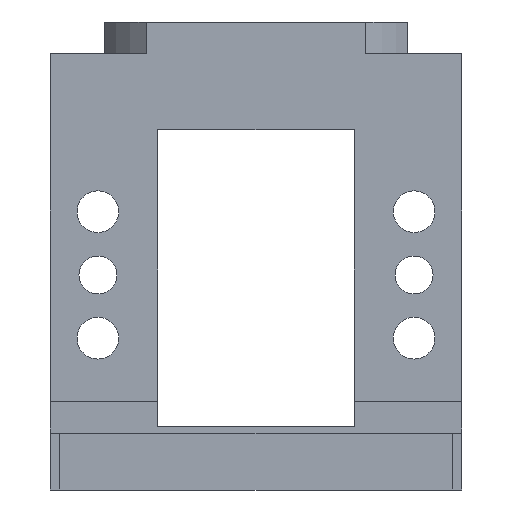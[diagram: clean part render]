
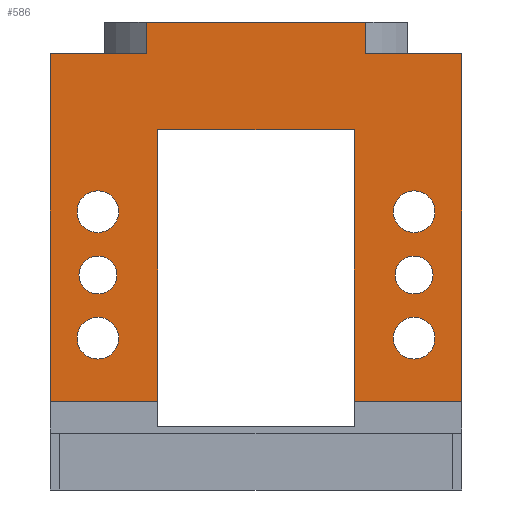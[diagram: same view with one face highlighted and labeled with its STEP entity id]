
A CAD part, front view. The second image highlights one B-rep face of the part: STEP entity #586.
In plain terms, the highlighted planar face has unit normal (0, -1, 0).
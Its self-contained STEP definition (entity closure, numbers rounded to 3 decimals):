
#586=ADVANCED_FACE('',(#981,#982,#983,#984,#985,#986,#987),#737,.F.);
#737=PLANE('',#3544);
#841=CIRCLE('',#3444,3.);
#843=CIRCLE('',#3447,3.);
#872=CIRCLE('',#3499,3.3);
#875=CIRCLE('',#3504,3.3);
#879=CIRCLE('',#3510,3.3);
#883=CIRCLE('',#3516,3.3);
#981=FACE_BOUND('',#1118,.T.);
#982=FACE_BOUND('',#1119,.T.);
#983=FACE_BOUND('',#1120,.T.);
#984=FACE_BOUND('',#1121,.T.);
#985=FACE_BOUND('',#1122,.T.);
#986=FACE_BOUND('',#1123,.T.);
#987=FACE_BOUND('',#1124,.T.);
#1118=EDGE_LOOP('',(#1439));
#1119=EDGE_LOOP('',(#1440));
#1120=EDGE_LOOP('',(#1441));
#1121=EDGE_LOOP('',(#1442));
#1122=EDGE_LOOP('',(#1443));
#1123=EDGE_LOOP('',(#1444));
#1124=EDGE_LOOP('',(#1445,#1446,#1447,#1448,#1449,#1450,#1451,#1452,#1453,
#1454,#1455,#1456));
#1439=ORIENTED_EDGE('',*,*,#2548,.F.);
#1440=ORIENTED_EDGE('',*,*,#2550,.F.);
#1441=ORIENTED_EDGE('',*,*,#2590,.F.);
#1442=ORIENTED_EDGE('',*,*,#2586,.F.);
#1443=ORIENTED_EDGE('',*,*,#2579,.F.);
#1444=ORIENTED_EDGE('',*,*,#2582,.F.);
#1445=ORIENTED_EDGE('',*,*,#2628,.F.);
#1446=ORIENTED_EDGE('',*,*,#2637,.F.);
#1447=ORIENTED_EDGE('',*,*,#2638,.T.);
#1448=ORIENTED_EDGE('',*,*,#2639,.T.);
#1449=ORIENTED_EDGE('',*,*,#2640,.F.);
#1450=ORIENTED_EDGE('',*,*,#2610,.F.);
#1451=ORIENTED_EDGE('',*,*,#2641,.T.);
#1452=ORIENTED_EDGE('',*,*,#2642,.T.);
#1453=ORIENTED_EDGE('',*,*,#2643,.F.);
#1454=ORIENTED_EDGE('',*,*,#2603,.T.);
#1455=ORIENTED_EDGE('',*,*,#2630,.F.);
#1456=ORIENTED_EDGE('',*,*,#2621,.F.);
#2224=VERTEX_POINT('',#4351);
#2226=VERTEX_POINT('',#4356);
#2259=VERTEX_POINT('',#4441);
#2262=VERTEX_POINT('',#4449);
#2266=VERTEX_POINT('',#4459);
#2270=VERTEX_POINT('',#4469);
#2282=VERTEX_POINT('',#4497);
#2283=VERTEX_POINT('',#4499);
#2288=VERTEX_POINT('',#4511);
#2289=VERTEX_POINT('',#4513);
#2297=VERTEX_POINT('',#4539);
#2298=VERTEX_POINT('',#4541);
#2302=VERTEX_POINT('',#4552);
#2306=VERTEX_POINT('',#4573);
#2307=VERTEX_POINT('',#4575);
#2308=VERTEX_POINT('',#4577);
#2309=VERTEX_POINT('',#4580);
#2310=VERTEX_POINT('',#4582);
#2548=EDGE_CURVE('',#2224,#2224,#841,.T.);
#2550=EDGE_CURVE('',#2226,#2226,#843,.T.);
#2579=EDGE_CURVE('',#2259,#2259,#872,.T.);
#2582=EDGE_CURVE('',#2262,#2262,#875,.T.);
#2586=EDGE_CURVE('',#2266,#2266,#879,.T.);
#2590=EDGE_CURVE('',#2270,#2270,#883,.T.);
#2603=EDGE_CURVE('',#2283,#2282,#3004,.T.);
#2610=EDGE_CURVE('',#2288,#2289,#3010,.T.);
#2621=EDGE_CURVE('',#2297,#2298,#3017,.T.);
#2628=EDGE_CURVE('',#2302,#2297,#3020,.T.);
#2630=EDGE_CURVE('',#2298,#2282,#3022,.T.);
#2637=EDGE_CURVE('',#2306,#2302,#3027,.T.);
#2638=EDGE_CURVE('',#2306,#2307,#3028,.T.);
#2639=EDGE_CURVE('',#2307,#2308,#3029,.T.);
#2640=EDGE_CURVE('',#2289,#2308,#3030,.T.);
#2641=EDGE_CURVE('',#2288,#2309,#3031,.T.);
#2642=EDGE_CURVE('',#2309,#2310,#3032,.T.);
#2643=EDGE_CURVE('',#2283,#2310,#3033,.T.);
#3004=LINE('',#4498,#3207);
#3010=LINE('',#4512,#3213);
#3017=LINE('',#4540,#3220);
#3020=LINE('',#4553,#3223);
#3022=LINE('',#4556,#3225);
#3027=LINE('',#4572,#3230);
#3028=LINE('',#4574,#3231);
#3029=LINE('',#4576,#3232);
#3030=LINE('',#4578,#3233);
#3031=LINE('',#4579,#3234);
#3032=LINE('',#4581,#3235);
#3033=LINE('',#4583,#3236);
#3207=VECTOR('',#3845,1.);
#3213=VECTOR('',#3855,1.);
#3220=VECTOR('',#3870,1.);
#3223=VECTOR('',#3883,1.);
#3225=VECTOR('',#3887,1.);
#3230=VECTOR('',#3900,1.);
#3231=VECTOR('',#3901,1.);
#3232=VECTOR('',#3902,1.);
#3233=VECTOR('',#3903,1.);
#3234=VECTOR('',#3904,1.);
#3235=VECTOR('',#3905,1.);
#3236=VECTOR('',#3906,1.);
#3444=AXIS2_PLACEMENT_3D('',#4350,#3672,#3673);
#3447=AXIS2_PLACEMENT_3D('',#4355,#3678,#3679);
#3499=AXIS2_PLACEMENT_3D('',#4440,#3782,#3783);
#3504=AXIS2_PLACEMENT_3D('',#4448,#3792,#3793);
#3510=AXIS2_PLACEMENT_3D('',#4458,#3804,#3805);
#3516=AXIS2_PLACEMENT_3D('',#4468,#3816,#3817);
#3544=AXIS2_PLACEMENT_3D('',#4584,#3907,#3908);
#3672=DIRECTION('',(0.,-1.,0.));
#3673=DIRECTION('',(0.,0.,-1.));
#3678=DIRECTION('',(0.,-1.,0.));
#3679=DIRECTION('',(0.,0.,-1.));
#3782=DIRECTION('',(0.,-1.,0.));
#3783=DIRECTION('',(-1.,0.,0.));
#3792=DIRECTION('',(0.,-1.,0.));
#3793=DIRECTION('',(-1.,0.,0.));
#3804=DIRECTION('',(0.,-1.,0.));
#3805=DIRECTION('',(-1.,0.,0.));
#3816=DIRECTION('',(0.,-1.,0.));
#3817=DIRECTION('',(-1.,0.,0.));
#3845=DIRECTION('',(-1.,0.,0.));
#3855=DIRECTION('',(-1.,0.,0.));
#3870=DIRECTION('',(1.,0.,0.));
#3883=DIRECTION('',(0.,0.,1.));
#3887=DIRECTION('',(0.,0.,-1.));
#3900=DIRECTION('',(1.,0.,0.));
#3901=DIRECTION('',(0.,0.,-1.));
#3902=DIRECTION('',(1.,0.,0.));
#3903=DIRECTION('',(0.,0.,-1.));
#3904=DIRECTION('',(0.,0.,-1.));
#3905=DIRECTION('',(1.,0.,0.));
#3906=DIRECTION('',(0.,0.,-1.));
#3907=DIRECTION('',(0.,1.,0.));
#3908=DIRECTION('',(1.,0.,0.));
#4350=CARTESIAN_POINT('',(-25.,-22.,29.));
#4351=CARTESIAN_POINT('',(-25.,-22.,26.));
#4355=CARTESIAN_POINT('',(25.,-22.,29.));
#4356=CARTESIAN_POINT('',(25.,-22.,26.));
#4440=CARTESIAN_POINT('',(25.,-22.,39.));
#4441=CARTESIAN_POINT('',(21.7,-22.,39.));
#4448=CARTESIAN_POINT('',(25.,-22.,19.));
#4449=CARTESIAN_POINT('',(21.7,-22.,19.));
#4458=CARTESIAN_POINT('',(-25.,-22.,19.));
#4459=CARTESIAN_POINT('',(-28.3,-22.,19.));
#4468=CARTESIAN_POINT('',(-25.,-22.,39.));
#4469=CARTESIAN_POINT('',(-28.3,-22.,39.));
#4497=CARTESIAN_POINT('',(17.321,-22.,64.));
#4498=CARTESIAN_POINT('',(32.5,-22.,64.));
#4499=CARTESIAN_POINT('',(32.5,-22.,64.));
#4511=CARTESIAN_POINT('',(15.5,-22.,52.));
#4512=CARTESIAN_POINT('',(-31.,-22.,52.));
#4513=CARTESIAN_POINT('',(-15.5,-22.,52.));
#4539=CARTESIAN_POINT('',(-17.321,-22.,69.));
#4540=CARTESIAN_POINT('',(26.,-22.,69.));
#4541=CARTESIAN_POINT('',(17.321,-22.,69.));
#4552=CARTESIAN_POINT('',(-17.321,-22.,64.));
#4553=CARTESIAN_POINT('',(-17.321,-22.,-25.344));
#4556=CARTESIAN_POINT('',(17.321,-22.,-25.344));
#4572=CARTESIAN_POINT('',(-32.5,-22.,64.));
#4573=CARTESIAN_POINT('',(-32.5,-22.,64.));
#4574=CARTESIAN_POINT('',(-32.5,-22.,64.));
#4575=CARTESIAN_POINT('',(-32.5,-22.,9.));
#4576=CARTESIAN_POINT('',(-32.5,-22.,9.));
#4577=CARTESIAN_POINT('',(-15.5,-22.,9.));
#4578=CARTESIAN_POINT('',(-15.5,-22.,59.));
#4579=CARTESIAN_POINT('',(15.5,-22.,59.));
#4580=CARTESIAN_POINT('',(15.5,-22.,9.));
#4581=CARTESIAN_POINT('',(-32.5,-22.,9.));
#4582=CARTESIAN_POINT('',(32.5,-22.,9.));
#4583=CARTESIAN_POINT('',(32.5,-22.,64.));
#4584=CARTESIAN_POINT('',(32.5,-22.,64.));
